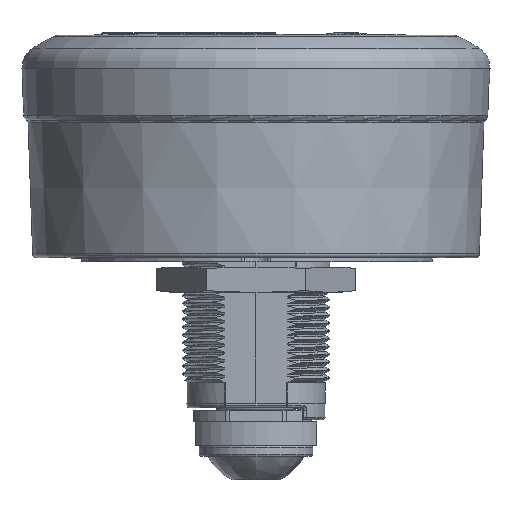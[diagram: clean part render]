
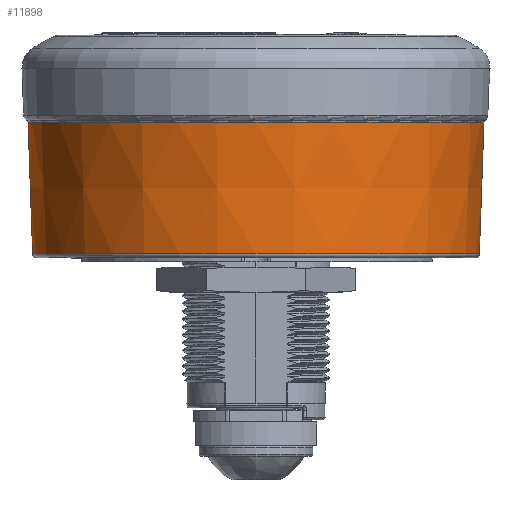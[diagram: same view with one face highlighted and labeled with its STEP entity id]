
A CAD part, left-side view. The second image highlights one B-rep face of the part: STEP entity #11898.
In plain terms, the highlighted conical face has half-angle 2 degrees and reference radius 28.494 mm.
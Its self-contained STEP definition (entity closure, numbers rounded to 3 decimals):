
#1473=CONICAL_SURFACE('',#31805,28.494,2.);
#11898=ADVANCED_FACE('',(#12660,#12661),#1473,.T.);
#12660=FACE_BOUND('',#14018,.T.);
#12661=FACE_BOUND('',#14019,.T.);
#14018=EDGE_LOOP('',(#21366));
#14019=EDGE_LOOP('',(#21367));
#15268=CIRCLE('',#31802,29.137);
#15269=CIRCLE('',#31804,28.549);
#21366=ORIENTED_EDGE('',*,*,#27522,.T.);
#21367=ORIENTED_EDGE('',*,*,#27521,.T.);
#24251=VERTEX_POINT('',#67057);
#24252=VERTEX_POINT('',#67060);
#27521=EDGE_CURVE('',#24251,#24251,#15268,.T.);
#27522=EDGE_CURVE('',#24252,#24252,#15269,.T.);
#31802=AXIS2_PLACEMENT_3D('',#67056,#36791,#36792);
#31804=AXIS2_PLACEMENT_3D('',#67059,#36795,#36796);
#31805=AXIS2_PLACEMENT_3D('',#67061,#36797,#36798);
#36791=DIRECTION('',(0.,0.,-1.));
#36792=DIRECTION('',(0.,-1.,0.));
#36795=DIRECTION('',(0.,0.,1.));
#36796=DIRECTION('',(0.,1.,0.));
#36797=DIRECTION('',(0.,0.,1.));
#36798=DIRECTION('',(0.,1.,0.));
#67056=CARTESIAN_POINT('',(0.,0.,8.51));
#67057=CARTESIAN_POINT('',(0.,-29.137,8.51));
#67059=CARTESIAN_POINT('',(0.,0.,-8.317));
#67060=CARTESIAN_POINT('',(0.,28.549,-8.317));
#67061=CARTESIAN_POINT('',(0.,0.,-9.906));
